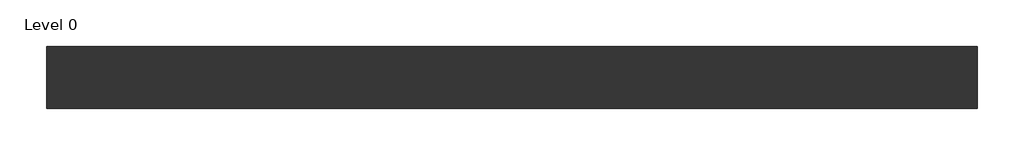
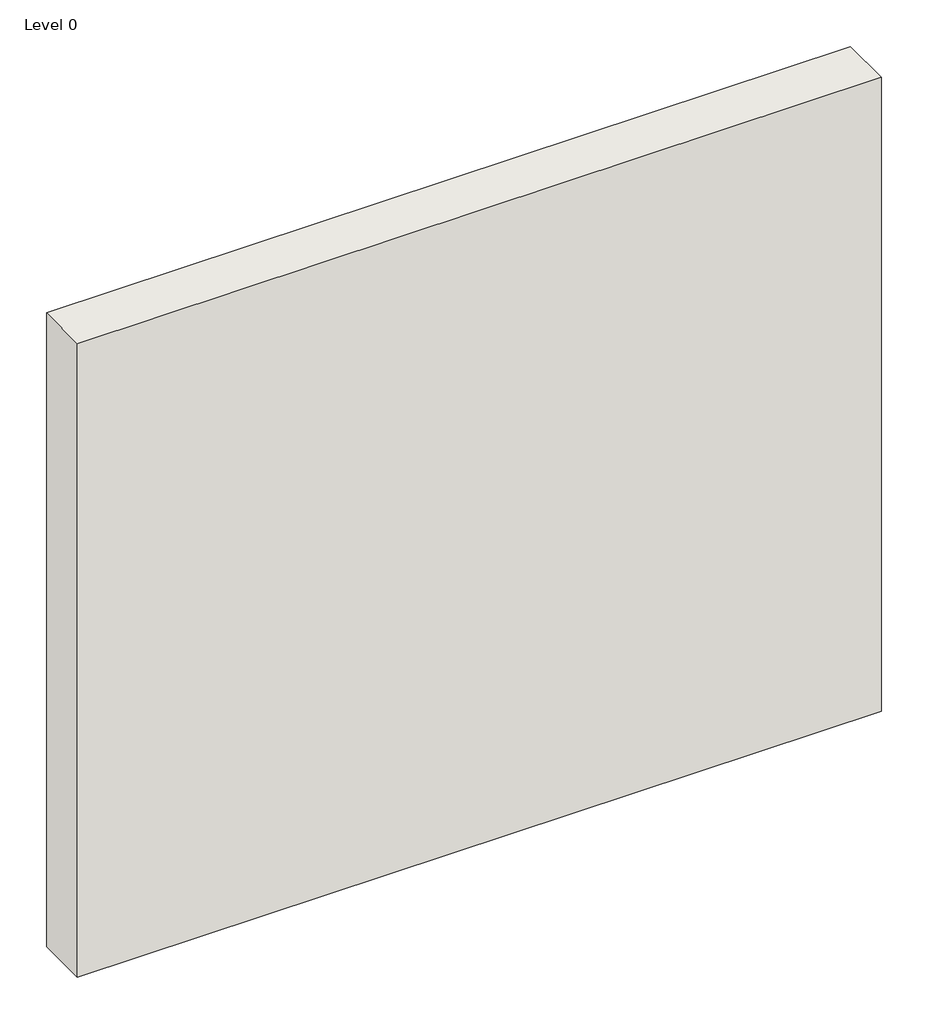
# One storey: 1 wall.
"""IFC4 building model written with IfcOpenShell, lengths in millimetres."""

import ifcopenshell
import ifcopenshell.guid

model = None  # the IFC model being written
_history = None  # IfcOwnerHistory: only IFC2X3 demands one
_inside = {}  # id of a spatial element -> (the spatial element, [elements in it])
_under = {}  # id of a project, library or spatial element -> (it, [spatial elements below it])
_declared = {}  # id of a project -> (the project, [libraries it declares])
_typed = {}  # id of a type object -> (the type object, [elements of that type])
_made_of = {}  # id of a material, layer set ... -> (it, [elements and type objects made of it])


def new_model(schema):
    """Start an empty IFC model of exactly this schema.

    Asked for "IFC4X3", IfcOpenShell would pick the latest addendum, in which some entities
    have other attributes; the version numbers below select the first issue.
    IFC2X3 requires an IfcOwnerHistory on every rooted entity: one is made here for all.
    """
    global model, _history
    if schema == "IFC4X3":
        model = ifcopenshell.file(schema_version=(4, 3, 0, 0))
    else:
        model = ifcopenshell.file(schema=schema)
    _inside.clear()
    _under.clear()
    _declared.clear()
    _typed.clear()
    _made_of.clear()
    _history = None
    if model.schema == "IFC2X3":
        org = make("IfcOrganization", Name="unknown")
        user = make(
            "IfcPersonAndOrganization",
            ThePerson=make("IfcPerson", FamilyName="unknown"),
            TheOrganization=org,
        )
        app = make(
            "IfcApplication",
            ApplicationDeveloper=org,
            Version="unknown",
            ApplicationFullName="unknown",
            ApplicationIdentifier="unknown",
        )
        _history = make(
            "IfcOwnerHistory",
            OwningUser=user,
            OwningApplication=app,
            ChangeAction="ADDED",
            CreationDate=0,
        )
    return model


def make(cls, **values):
    """One entity of the class cls with the attributes given. An attribute that is None is left unset."""
    return model.create_entity(
        cls, **{name: value for name, value in values.items() if value is not None}
    )


def rooted(cls, **values):
    """An entity with a GlobalId (a new one), such as an element, a storey or a relation."""
    return make(cls, GlobalId=ifcopenshell.guid.new(), OwnerHistory=_history, **values)


def si_unit(unit_type, name, prefix=None):
    """IfcSIUnit, for example si_unit("LENGTHUNIT", "METRE", prefix="MILLI")."""
    return make("IfcSIUnit", UnitType=unit_type, Prefix=prefix, Name=name)


def assignment(units):
    """IfcUnitAssignment: the units of a project."""
    return None if units is None else make("IfcUnitAssignment", Units=units)


def point(xyz):
    """IfcCartesianPoint."""
    return None if xyz is None else make("IfcCartesianPoint", Coordinates=xyz)


def direction(xyz):
    """IfcDirection."""
    return None if xyz is None else make("IfcDirection", DirectionRatios=xyz)


def frame(location, z_axis=None, x_axis=None):
    """IfcAxis2Placement3D, a coordinate frame: its origin and axes. An axis left out is left unset."""
    return make(
        "IfcAxis2Placement3D",
        Location=point(location),
        Axis=direction(z_axis),
        RefDirection=direction(x_axis),
    )


def origin():
    """The frame at (0, 0, 0) with its axes left unset."""
    return frame((0.0, 0.0, 0.0))


def origin_with_axes():
    """The frame at (0, 0, 0) with the z axis (0, 0, 1) and the x axis (1, 0, 0) written out."""
    return frame((0.0, 0.0, 0.0), z_axis=(0.0, 0.0, 1.0), x_axis=(1.0, 0.0, 0.0))


def place(relative_to, where):
    """IfcLocalPlacement: puts the frame where relative to a parent placement (None: the world)."""
    return make(
        "IfcLocalPlacement", PlacementRelTo=relative_to, RelativePlacement=where
    )


def context(
    kind, dimensions, precision=None, world=None, true_north=None, identifier=None
):
    """IfcGeometricRepresentationContext, for example the 3D "Model" context."""
    return make(
        "IfcGeometricRepresentationContext",
        ContextIdentifier=identifier,
        ContextType=kind,
        CoordinateSpaceDimension=dimensions,
        Precision=precision,
        WorldCoordinateSystem=world,
        TrueNorth=true_north,
    )


def project(units=None, contexts=None):
    """IfcProject with its units and contexts."""
    return rooted(
        "IfcProject",
        Name="project",
        RepresentationContexts=contexts,
        UnitsInContext=assignment(units),
    )


def spatial(cls, under=None, at=None, **own):
    """A site, building, storey or space (cls), placed at a placement, below another one or the project."""
    s = rooted(cls, ObjectPlacement=at, **own)
    if under is not None:
        _under.setdefault(under.id(), (under, []))[1].append(s)
    return s


def polyline(points):
    """IfcPolyline through the points."""
    return make("IfcPolyline", Points=[point(p) for p in points])


def outline(outer, holes=None, kind="AREA"):
    """IfcArbitraryClosedProfileDef: a profile drawn as a closed curve; with holes, ...WithVoids."""
    if holes is None:
        return make("IfcArbitraryClosedProfileDef", ProfileType=kind, OuterCurve=outer)
    return make(
        "IfcArbitraryProfileDefWithVoids",
        ProfileType=kind,
        OuterCurve=outer,
        InnerCurves=holes,
    )


def extrude(swept, where, along, depth):
    """IfcExtrudedAreaSolid: the profile swept, set in the frame where, extruded along a direction by depth."""
    return make(
        "IfcExtrudedAreaSolid",
        SweptArea=swept,
        Position=where,
        ExtrudedDirection=direction(along),
        Depth=depth,
    )


def shape(context_of_items, identifier, shape_type, items):
    """IfcShapeRepresentation: the items that make up one representation, for example the "Body"."""
    return make(
        "IfcShapeRepresentation",
        ContextOfItems=context_of_items,
        RepresentationIdentifier=identifier,
        RepresentationType=shape_type,
        Items=items,
    )


def made_of(thing, what):
    """Note that an element or type object is made of a material, layer set ...; save() writes the relation."""
    if what is not None:
        _made_of.setdefault(what.id(), (what, []))[1].append(thing)
    return thing


def element(
    cls,
    number,
    at=None,
    inside=None,
    cuts=None,
    type_object=None,
    material=None,
    context=None,
    identifier="Body",
    shape_type=None,
    held_by="IfcProductDefinitionShape",
    body=None,
    shapes=None,
    **own,
):
    """One element of the class cls, such as IfcWall. Its Tag is "e" and its number.

    at: its placement. inside: the storey or other place that contains it. cuts: it is an
    opening in that element (IfcRelVoidsElement). A single representation is given by context,
    identifier, shape_type and body (its items); several are given by shapes. held_by: the class
    of the entity that holds the representations. save() writes the other relations.
    """
    e = rooted(cls, Tag="e%d" % number, ObjectPlacement=at, **own)
    if body is not None:
        shapes = [shape(context, identifier, shape_type, body)]
    if shapes is not None:
        e.Representation = make(held_by, Representations=shapes)
    if inside is not None:
        _inside.setdefault(inside.id(), (inside, []))[1].append(e)
    if cuts is not None:
        rooted(
            "IfcRelVoidsElement", RelatingBuildingElement=cuts, RelatedOpeningElement=e
        )
    if type_object is not None:
        _typed.setdefault(type_object.id(), (type_object, []))[1].append(e)
    return made_of(e, material)


def aggregate(whole, parts):
    """IfcRelAggregates: a whole, such as a stair, and the parts it consists of."""
    return rooted("IfcRelAggregates", RelatingObject=whole, RelatedObjects=parts)


def save(model, path):
    """Write the relations noted so far, then the file.

    IfcRelAggregates (storeys below a building ...), IfcRelContainedInSpatialStructure (elements
    in a storey), IfcRelDefinesByType, IfcRelAssociatesMaterial and IfcRelDeclares: one each for
    every whole, place, type object, material and project.
    """
    for whole, parts in _under.values():
        aggregate(whole, parts)
    for where, things in _inside.values():
        rooted(
            "IfcRelContainedInSpatialStructure",
            RelatedElements=things,
            RelatingStructure=where,
        )
    for kind, things in _typed.values():
        rooted("IfcRelDefinesByType", RelatedObjects=things, RelatingType=kind)
    for what, things in _made_of.values():
        rooted("IfcRelAssociatesMaterial", RelatedObjects=things, RelatingMaterial=what)
    for by, libraries in _declared.values():
        rooted("IfcRelDeclares", RelatingContext=by, RelatedDefinitions=libraries)
    model.write(path)


model = new_model("IFC4")

# Units and contexts
model_context = context("Model", 3, world=origin())
ifc_project = project(units=[si_unit("LENGTHUNIT", "METRE", prefix="MILLI")], contexts=[model_context])

# Site, building, storey
site = spatial("IfcSite", under=ifc_project)
building = spatial("IfcBuilding", under=site)
storey = spatial("IfcBuildingStorey", under=building, Name="Level 0", Elevation=0.0)

# Wall
placement = place(None, origin())
element("IfcWall", 1, ObjectType="A216009 - GypWall QUIET", at=placement, inside=storey, context=model_context, shape_type="SweptSolid", body=[
    extrude(outline(polyline([(2116.0807354, 493.7205641), (-883.9192646, 493.7205641), (-883.9192646, 693.7205641), (2116.0807354, 693.7205641), (2116.0807354, 493.7205641)])), origin_with_axes(), (0.0, 0.0, 1.0), 2500.0),
])

save(model, "model.ifc")
